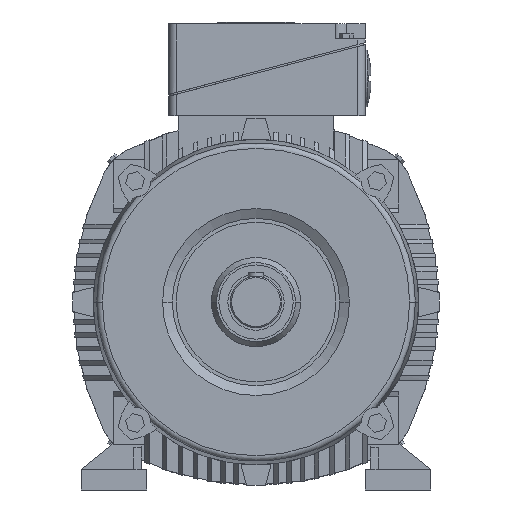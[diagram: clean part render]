
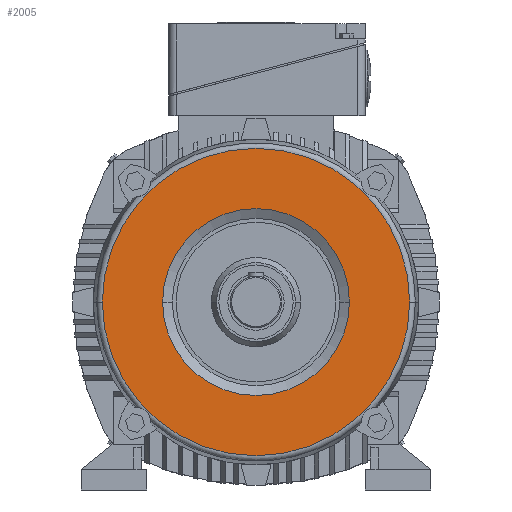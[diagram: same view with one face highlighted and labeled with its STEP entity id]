
A CAD part, front view. The second image highlights one B-rep face of the part: STEP entity #2005.
In plain terms, the highlighted planar face has unit normal (0, -1, 0).
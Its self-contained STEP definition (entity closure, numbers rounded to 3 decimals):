
#2005=ADVANCED_FACE('',(#4174,#4175),#4176,.T.);
#4174=FACE_BOUND('',#6517,.T.);
#4175=FACE_OUTER_BOUND('',#6518,.T.);
#4176=PLANE('',#6519);
#6517=EDGE_LOOP('',(#12947,#12948));
#6518=EDGE_LOOP('',(#12949,#12950));
#6519=AXIS2_PLACEMENT_3D('',#12951,#12952,#12953);
#12947=ORIENTED_EDGE('',*,*,#14554,.T.);
#12948=ORIENTED_EDGE('',*,*,#16742,.T.);
#12949=ORIENTED_EDGE('',*,*,#14606,.T.);
#12950=ORIENTED_EDGE('',*,*,#16633,.T.);
#12951=CARTESIAN_POINT('',(81.783,-47.0,0.0));
#12952=DIRECTION('',(0.,-1.0,0.0));
#12953=DIRECTION('',(1.0,0.,0.0));
#14554=EDGE_CURVE('',#17557,#17554,#17558,.T.);
#14606=EDGE_CURVE('',#17638,#17644,#17646,.T.);
#16633=EDGE_CURVE('',#17644,#17638,#20681,.T.);
#16742=EDGE_CURVE('',#17554,#17557,#20821,.T.);
#17554=VERTEX_POINT('',#22204);
#17557=VERTEX_POINT('',#22208);
#17558=CIRCLE('',#22209,99.392);
#17638=VERTEX_POINT('',#22414);
#17644=VERTEX_POINT('',#22470);
#17646=CIRCLE('',#22472,163.565);
#20681=CIRCLE('',#31864,163.565);
#20821=CIRCLE('',#32123,99.392);
#22204=CARTESIAN_POINT('',(99.392,-47.0,0.));
#22208=CARTESIAN_POINT('',(-99.392,-47.0,0.));
#22209=AXIS2_PLACEMENT_3D('',#33630,#33631,#33632);
#22414=CARTESIAN_POINT('',(163.565,-47.0,0.0));
#22470=CARTESIAN_POINT('',(-163.565,-47.0,0.));
#22472=AXIS2_PLACEMENT_3D('',#33702,#33703,#33704);
#31864=AXIS2_PLACEMENT_3D('',#35504,#35505,#35506);
#32123=AXIS2_PLACEMENT_3D('',#35630,#35631,#35632);
#33630=CARTESIAN_POINT('',(0.0,-47.0,0.0));
#33631=DIRECTION('',(0.,1.0,0.0));
#33632=DIRECTION('',(1.0,0.,0.0));
#33702=CARTESIAN_POINT('',(0.0,-47.0,0.0));
#33703=DIRECTION('',(0.0,-1.0,0.0));
#33704=DIRECTION('',(1.0,0.0,0.0));
#35504=CARTESIAN_POINT('',(0.0,-47.0,0.0));
#35505=DIRECTION('',(0.0,-1.0,0.0));
#35506=DIRECTION('',(1.0,0.0,0.0));
#35630=CARTESIAN_POINT('',(0.0,-47.0,0.0));
#35631=DIRECTION('',(0.,1.0,0.0));
#35632=DIRECTION('',(1.0,0.,0.0));
